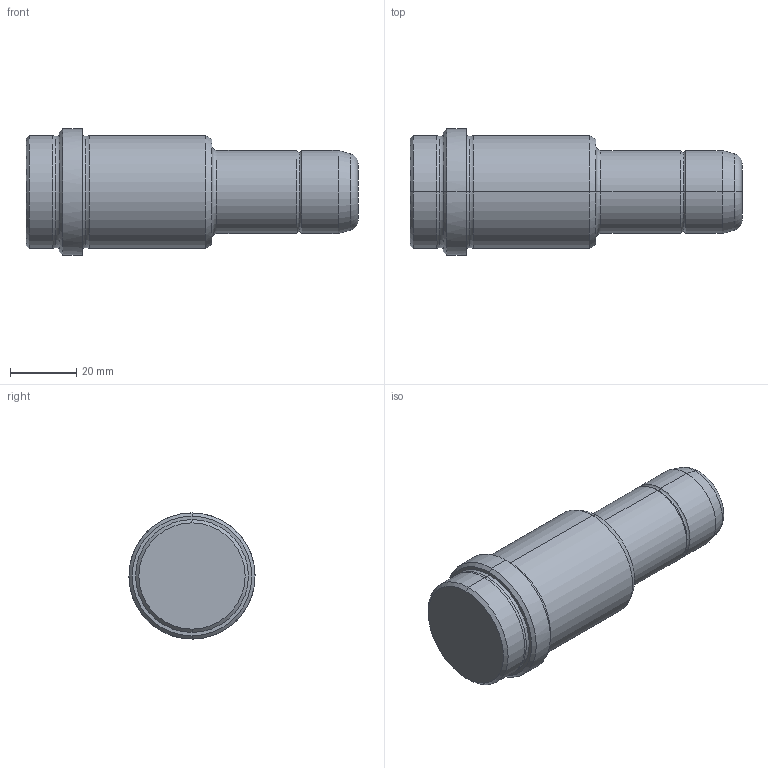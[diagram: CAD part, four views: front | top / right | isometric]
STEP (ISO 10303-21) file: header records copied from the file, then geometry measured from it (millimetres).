
FILE_DESCRIPTION(('CATIA V5 STEP Exchange'),'2;1');
FILE_NAME('C:\Users\Utente\Desktop\IO LAVORO\3D X SITO CF\X SITO\PLASTICA\357\357-25X56X100.stp','2021-08-14T09:22:27+00:00',('none'),('none'),'CATIA Version 5 Release 20 GA (IN-10)','CATIA V5 STEP AP203','none');
FILE_SCHEMA(('CONFIG_CONTROL_DESIGN'));
Length unit declared in the file: millimetre
Products named in the file (1): 357-25X56X100
Bounding box: 100 x 38 x 38 mm (x, y, z)
Volume: 73299.4 mm3; surface area: 11372.1 mm2
Topology: 1 solids, 1 shells, 39 faces, 112 edges, 78 vertices
Faces by surface type: torus 16, cylinder 10, cone 8, plane 5
Entity records: 1404 total; most frequent: CARTESIAN_POINT 342, ORIENTED_EDGE 224, DIRECTION 182, AXIS2_PLACEMENT_3D 126, EDGE_CURVE 112, CIRCLE 86, VERTEX_POINT 78, EDGE_LOOP 42
